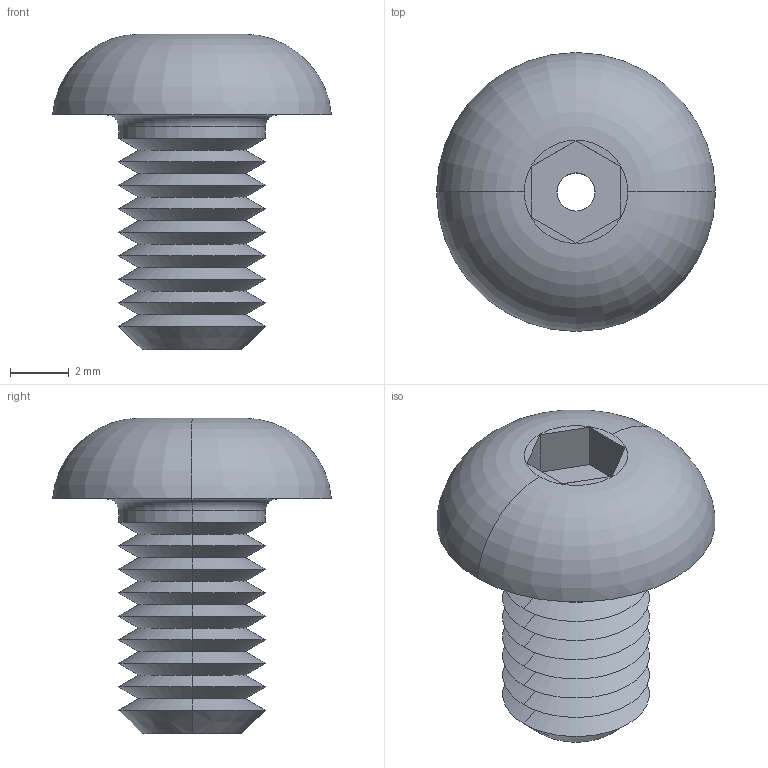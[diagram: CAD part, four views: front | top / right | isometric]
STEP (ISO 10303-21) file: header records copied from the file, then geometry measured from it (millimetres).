
FILE_DESCRIPTION (( 'STEP AP203' ), '1' );
FILE_NAME ('P0094.050-008-A2.step', '2019-07-12T16:53:19', ( '' ), ( '' ), 'SwSTEP 2.0', 'SolidWorks 2017', '' );
FILE_SCHEMA (( 'CONFIG_CONTROL_DESIGN' ));
Length unit declared in the file: millimetre
Products named in the file (1): P0094.050-008-A2
Bounding box: 9.5 x 9.5 x 10.75 mm (x, y, z)
Volume: 243.4 mm3; surface area: 420.4 mm2
Topology: 1 solids, 1 shells, 52 faces, 108 edges, 60 vertices
Faces by surface type: cone 34, plane 10, cylinder 4, torus 4
Entity records: 1437 total; most frequent: DIRECTION 266, CARTESIAN_POINT 221, ORIENTED_EDGE 216, EDGE_CURVE 108, AXIS2_PLACEMENT_3D 105, VERTEX_POINT 60, LINE 56, VECTOR 56
